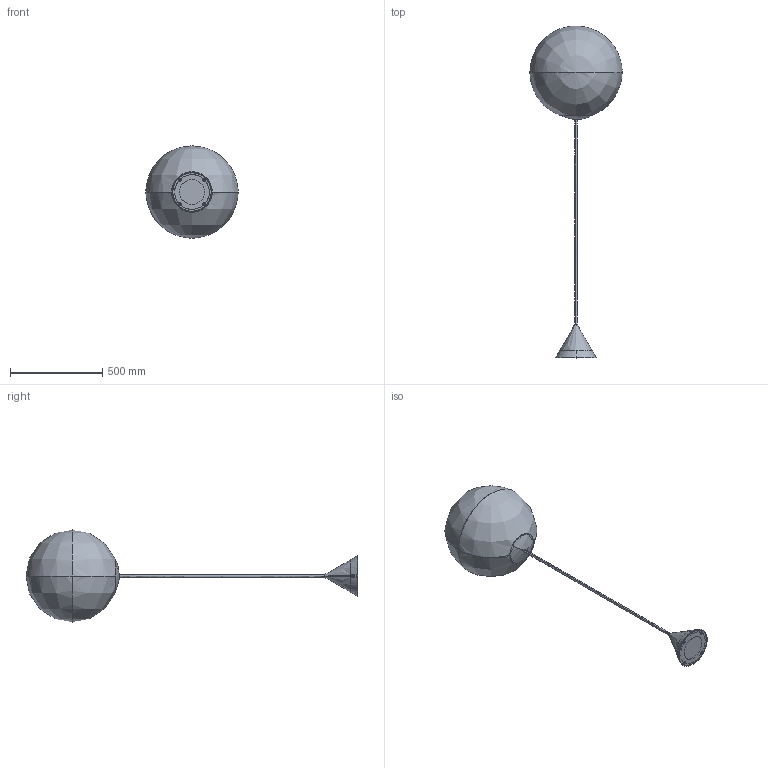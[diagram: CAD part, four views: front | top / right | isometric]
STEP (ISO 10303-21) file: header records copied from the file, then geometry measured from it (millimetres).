
FILE_DESCRIPTION(/* description */ (''),/* implementation_level */ '2;1');
FILE_NAME(/* name */ 'Cone Floor',/* time_stamp */ '2022-07-13T17:23:39+01:00',/* author */ (''),/* organization */ (''),/* preprocessor_version */ 'ST-DEVELOPER v16.5',/* originating_system */ '',/* authorisation */ '');
FILE_SCHEMA (('AUTOMOTIVE_DESIGN'));
Length unit declared in the file: millimetre
Products named in the file (1): Document
Bounding box: 500 x 1800 x 500 mm (x, y, z)
Volume: 2954178.9 mm3; surface area: 2153882.1 mm2
Topology: 53 solids, 54 shells, 956 faces, 2359 edges, 1495 vertices
Faces by surface type: bspline 575, plane 381
Entity records: 73542 total; most frequent: CARTESIAN_POINT 58695, ORIENTED_EDGE 4674, EDGE_CURVE 2339, VERTEX_POINT 1495, B_SPLINE_CURVE_WITH_KNOTS 1471, EDGE_LOOP 1030, ADVANCED_FACE 956, FACE_OUTER_BOUND 956
